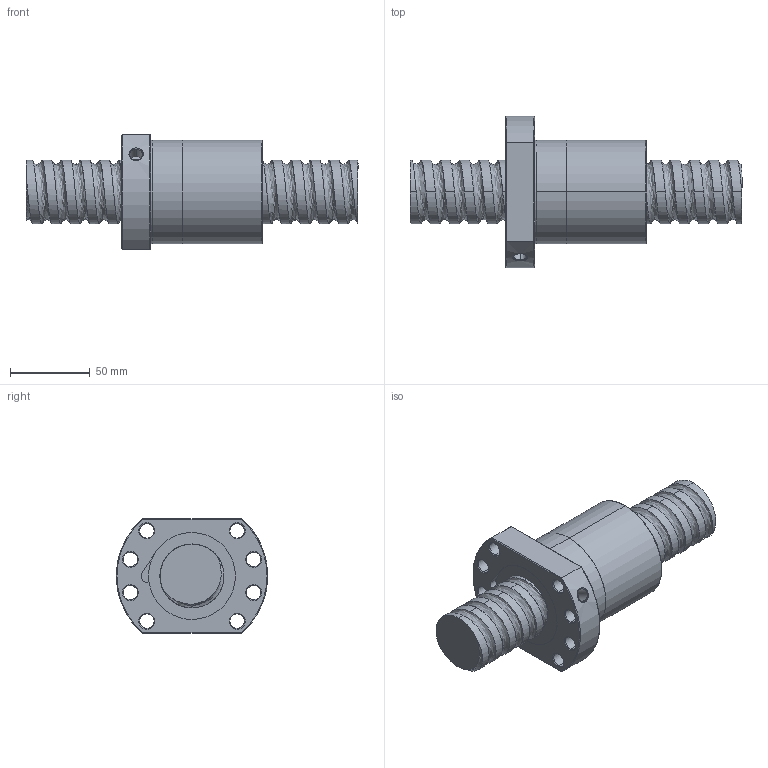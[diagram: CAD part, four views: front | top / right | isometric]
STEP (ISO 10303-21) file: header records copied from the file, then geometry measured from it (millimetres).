
FILE_DESCRIPTION (( 'STEP AP214' ), '1' );
FILE_NAME ('FSDC04012T5F-C.STEP', '2010-06-25T12:19:30', ( 'XPAUTO' ), ( 'XPAUTO' ), 'SwSTEP 2.0', 'SolidWorks 2007', '' );
FILE_SCHEMA (( 'AUTOMOTIVE_DESIGN' ));
Length unit declared in the file: millimetre
Products named in the file (3): FSDC04012T5F-C.sldasm-Part-2_預設; FSDC04012T5F-C.sldasm-Part-1_預設; FSDC04012T5F-C
Assembly tree (2 placements, depth 2):
  FSDC04012T5F-C
    FSDC04012T5F-C.sldasm-Part-1_預設
    FSDC04012T5F-C.sldasm-Part-2_預設
Bounding box: 208 x 95 x 72 mm (x, y, z)
Volume: 457054.5 mm3; surface area: 76633 mm2
Topology: 2 solids, 2 shells, 141 faces, 349 edges, 217 vertices
Faces by surface type: cylinder 76, cone 32, plane 22, torus 6, bspline 5
Entity records: 26618 total; most frequent: CARTESIAN_POINT 23266, ORIENTED_EDGE 698, DIRECTION 657, EDGE_CURVE 349, AXIS2_PLACEMENT_3D 266, VERTEX_POINT 217, EDGE_LOOP 166, FACE_OUTER_BOUND 141
